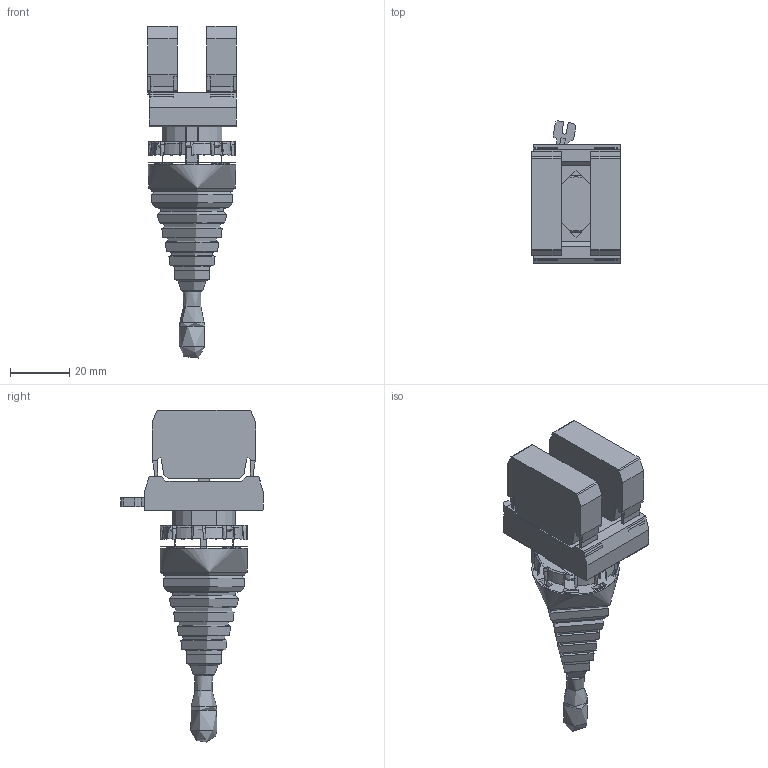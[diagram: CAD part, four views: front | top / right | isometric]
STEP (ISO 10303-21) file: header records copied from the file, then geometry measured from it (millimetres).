
FILE_DESCRIPTION((''),'2; 1');
FILE_NAME('','2026-03-26T14:30:56',(''),(''),'CST STEP Exporter V1.0','Unknown','');
FILE_SCHEMA(('CONFIG_CONTROL_DESIGN'));
Length unit declared in the file: metre
Assembly tree (6 placements, depth 2):
  (unnamed)
    (unnamed)
    (unnamed)
    (unnamed)
    (unnamed)
    (unnamed)
    (unnamed)
Bounding box: 30 x 48.02 x 112.05 mm (x, y, z)
Topology: 0 solids, 85 shells, 272 faces, 909 edges, 692 vertices
Faces by surface type: plane 135, cylinder 53, torus 32, bspline 32, cone 19, sphere 1
Full cylindrical faces by diameter (mm): 2 x15, 6 x1, 9 x1, 22.4 x1, 27.5 x1, 29.5 x2
Entity records: 16310 total; most frequent: CARTESIAN_POINT 5998, ORIENTED_EDGE 1492, DIRECTION 1467, EDGE_CURVE 870, VERTEX_POINT 631, AXIS2_PLACEMENT_3D 495, VECTOR 477, LINE 477
